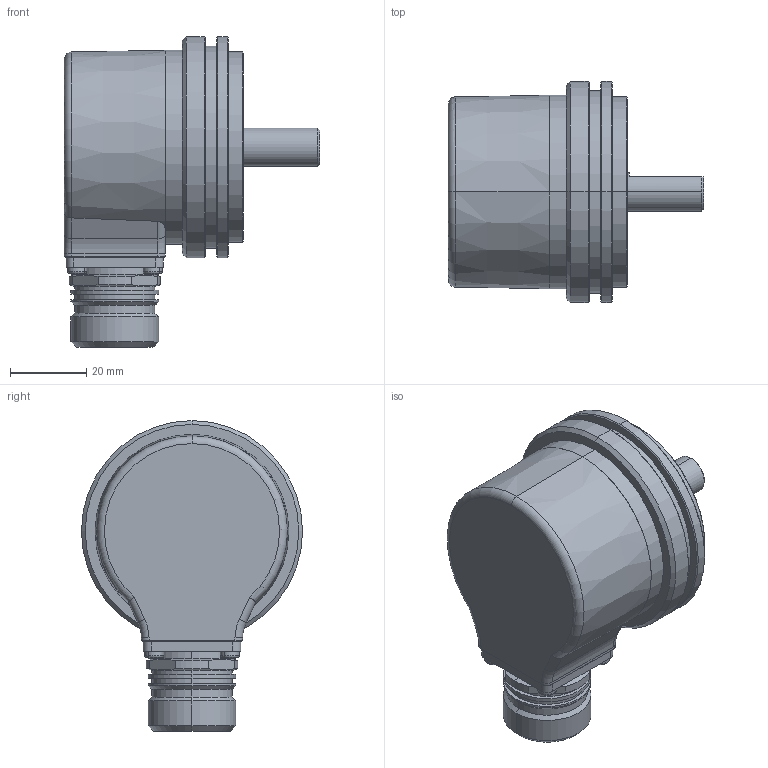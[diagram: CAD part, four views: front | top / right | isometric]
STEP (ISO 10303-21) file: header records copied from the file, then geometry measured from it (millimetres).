
FILE_DESCRIPTION (( 'STEP AP214' ), '1' );
FILE_NAME ('5000.B3X8.XXXX.STEP', '2007-11-28T09:52:40', ( 'DanneckerS' ), ( ' ' ), 'SwSTEP 2.0', 'SolidWorks 2007', '' );
FILE_SCHEMA (( 'AUTOMOTIVE_DESIGN' ));
Length unit declared in the file: millimetre
Products named in the file (1): 5000.B3X8.XXXX
Bounding box: 67 x 58 x 81.5 mm (x, y, z)
Surface area: 20312.6 mm2 (no closed solid volume)
Topology: 0 solids, 34 shells, 320 faces, 844 edges, 543 vertices
Faces by surface type: cylinder 117, plane 98, torus 40, sphere 32, cone 29, bspline 4
Entity records: 13529 total; most frequent: DIRECTION 1928, CARTESIAN_POINT 1890, ORIENTED_EDGE 1476, AXIS2_PLACEMENT_3D 825, EDGE_CURVE 820, VERTEX_POINT 543, CIRCLE 508, EDGE_LOOP 370
